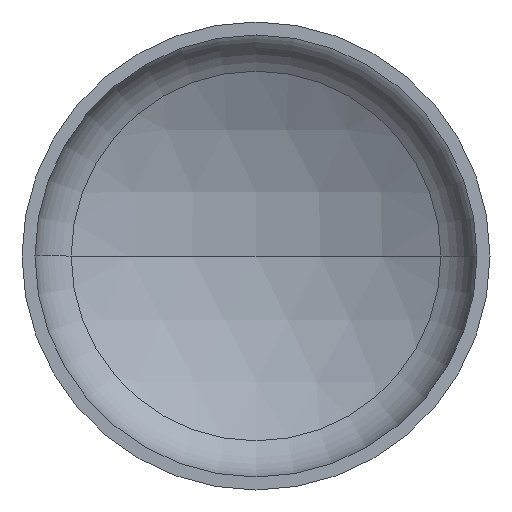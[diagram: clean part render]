
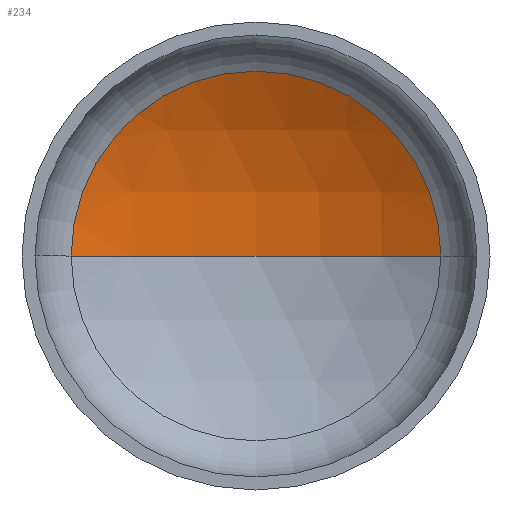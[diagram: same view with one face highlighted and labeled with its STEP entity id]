
A CAD part, front view. The second image highlights one B-rep face of the part: STEP entity #234.
In plain terms, the highlighted spherical face has radius 1440 mm.
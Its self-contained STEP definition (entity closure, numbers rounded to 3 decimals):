
#8 = EDGE_LOOP ( 'NONE', ( #20, #96, #86 ) ) ;
#13 = DIRECTION ( 'NONE',  ( -1., 0., 0. ) ) ;
#20 = ORIENTED_EDGE ( 'NONE', *, *, #131, .F. ) ;
#24 = DIRECTION ( 'NONE',  ( 0., 0., -1. ) ) ;
#30 = DIRECTION ( 'NONE',  ( -1., 0., 0. ) ) ;
#32 = AXIS2_PLACEMENT_3D ( 'NONE', #178, #33, #30 ) ;
#33 = DIRECTION ( 'NONE',  ( 0., 0., -1. ) ) ;
#34 = VERTEX_POINT ( 'NONE', #287 ) ;
#43 = DIRECTION ( 'NONE',  ( 0., -1., 0. ) ) ;
#62 = AXIS2_PLACEMENT_3D ( 'NONE', #397, #349, #184 ) ;
#64 = AXIS2_PLACEMENT_3D ( 'NONE', #134, #24, #13 ) ;
#66 = AXIS2_PLACEMENT_3D ( 'NONE', #198, #43, #276 ) ;
#78 = VERTEX_POINT ( 'NONE', #266 ) ;
#86 = ORIENTED_EDGE ( 'NONE', *, *, #123, .T. ) ;
#96 = ORIENTED_EDGE ( 'NONE', *, *, #126, .T. ) ;
#123 = EDGE_CURVE ( 'NONE', #34, #78, #391, .T. ) ;
#126 = EDGE_CURVE ( 'NONE', #226, #34, #331, .T. ) ;
#131 = EDGE_CURVE ( 'NONE', #226, #78, #210, .T. ) ;
#134 = CARTESIAN_POINT ( 'NONE',  ( 0., -863.213, 0. ) ) ;
#178 = CARTESIAN_POINT ( 'NONE',  ( 0., -863.213, 0. ) ) ;
#184 = DIRECTION ( 'NONE',  ( 1., 0., 0. ) ) ;
#198 = CARTESIAN_POINT ( 'NONE',  ( 0., 389.17, 0. ) ) ;
#210 = CIRCLE ( 'NONE', #62, 1440. ) ;
#226 = VERTEX_POINT ( 'NONE', #241 ) ;
#234 = ADVANCED_FACE ( 'NONE', ( #310 ), #255, .F. ) ;
#241 = CARTESIAN_POINT ( 'NONE',  ( 0., 576.787, 0. ) ) ;
#255 = SPHERICAL_SURFACE ( 'NONE', #32, 1440. ) ;
#266 = CARTESIAN_POINT ( 'NONE',  ( -710.73, 389.17, 0. ) ) ;
#276 = DIRECTION ( 'NONE',  ( 1., 0., 0. ) ) ;
#287 = CARTESIAN_POINT ( 'NONE',  ( 710.73, 389.17, 0. ) ) ;
#310 = FACE_OUTER_BOUND ( 'NONE', #8, .T. ) ;
#331 = CIRCLE ( 'NONE', #64, 1440. ) ;
#349 = DIRECTION ( 'NONE',  ( 0., 0., 1. ) ) ;
#391 = CIRCLE ( 'NONE', #66, 710.73 ) ;
#397 = CARTESIAN_POINT ( 'NONE',  ( 0., -863.213, 0. ) ) ;
